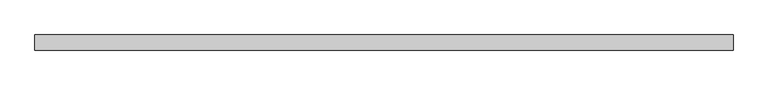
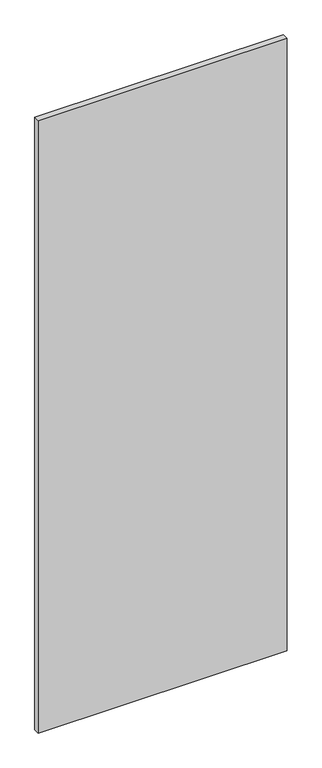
"""IFC4 building model written with IfcOpenShell, lengths in millimetres: plate geometry, Системная панель : ADSK_Cтеклопакет_25."""

from ifc_helpers import new_model, si_unit, origin, origin_with_axes, place, context, project, spatial, polyline, outline, extrude, source, transform, mapped, element, save


def plate_c4f5b4d2(model_context):
    return source(origin(), model_context, "Body", "SweptSolid", [
        extrude(outline(polyline([(562.5, -12.5), (-562.5, -12.5), (-562.5, 12.5), (562.5, 12.5), (562.5, -12.5)])), origin_with_axes(), (0.0, 0.0, 1.0), 2925.0),
    ])


if __name__ == "__main__":
    model = new_model("IFC4")
    model_context = context("Model", 3, world=origin())
    ifc_project = project(units=[si_unit("LENGTHUNIT", "METRE", prefix="MILLI")], contexts=[model_context])
    site = spatial("IfcSite", under=ifc_project)
    building = spatial("IfcBuilding", under=site)
    placement = place(None, origin())
    plate_shape = plate_c4f5b4d2(model_context)
    element("IfcPlate", 1, ObjectType="Системная панель : ADSK_Cтеклопакет_25", at=placement, inside=building, context=model_context, shape_type="MappedRepresentation", body=[
        mapped(plate_shape, transform((0.0, 0.0, 0.0), x_axis=(1.0, 0.0, 0.0), y_axis=(0.0, 1.0, 0.0), z_axis=(0.0, 0.0, 1.0))),
    ])
    save(model, "model.ifc")
